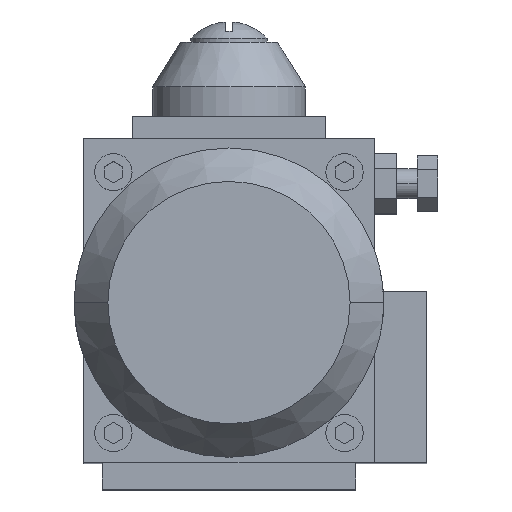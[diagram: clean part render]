
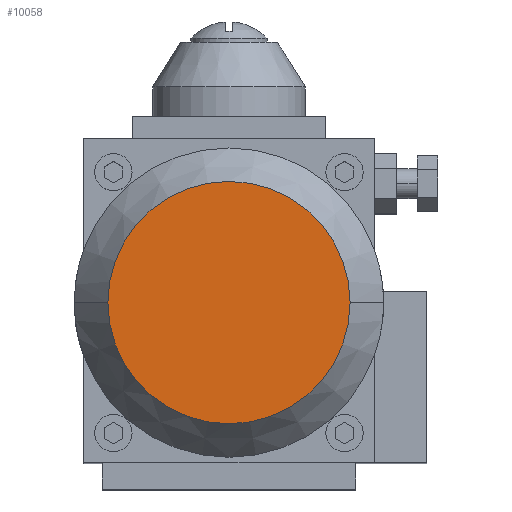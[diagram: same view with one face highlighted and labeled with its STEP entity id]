
A CAD part, top view. The second image highlights one B-rep face of the part: STEP entity #10058.
In plain terms, the highlighted planar face has unit normal (0, 0, 1).
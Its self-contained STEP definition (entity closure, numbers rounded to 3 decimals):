
#9113=CARTESIAN_POINT('',(0.,0.,90.));
#9114=DIRECTION('',(0.,0.,-1.));
#9115=DIRECTION('',(-1.,0.,0.));
#9116=AXIS2_PLACEMENT_3D('',#9113,#9114,#9115);
#9118=CARTESIAN_POINT('',(0.,0.,90.));
#9119=DIRECTION('',(0.,0.,-1.));
#9120=DIRECTION('',(1.,0.,0.));
#9121=AXIS2_PLACEMENT_3D('',#9118,#9119,#9120);
#9535=CARTESIAN_POINT('',(-32.5,0.,90.));
#9536=CARTESIAN_POINT('',(32.5,0.,90.));
#9537=VERTEX_POINT('',#9535);
#9538=VERTEX_POINT('',#9536);
#10049=CARTESIAN_POINT('',(0.,0.,90.));
#10050=DIRECTION('',(0.,0.,1.));
#10051=DIRECTION('',(1.,0.,0.));
#10052=AXIS2_PLACEMENT_3D('',#10049,#10050,#10051);
#10053=PLANE('',#10052);
#10054=ORIENTED_EDGE('',*,*,#9891,.T.);
#10055=ORIENTED_EDGE('',*,*,#10042,.T.);
#10056=EDGE_LOOP('',(#10054,#10055));
#10057=FACE_OUTER_BOUND('',#10056,.F.);
#10058=ADVANCED_FACE('',(#10057),#10053,.T.);
#9117=CIRCLE('',#9116,32.5);
#9122=CIRCLE('',#9121,32.5);
#9891=EDGE_CURVE('',#9537,#9538,#9117,.T.);
#10042=EDGE_CURVE('',#9538,#9537,#9122,.T.);
